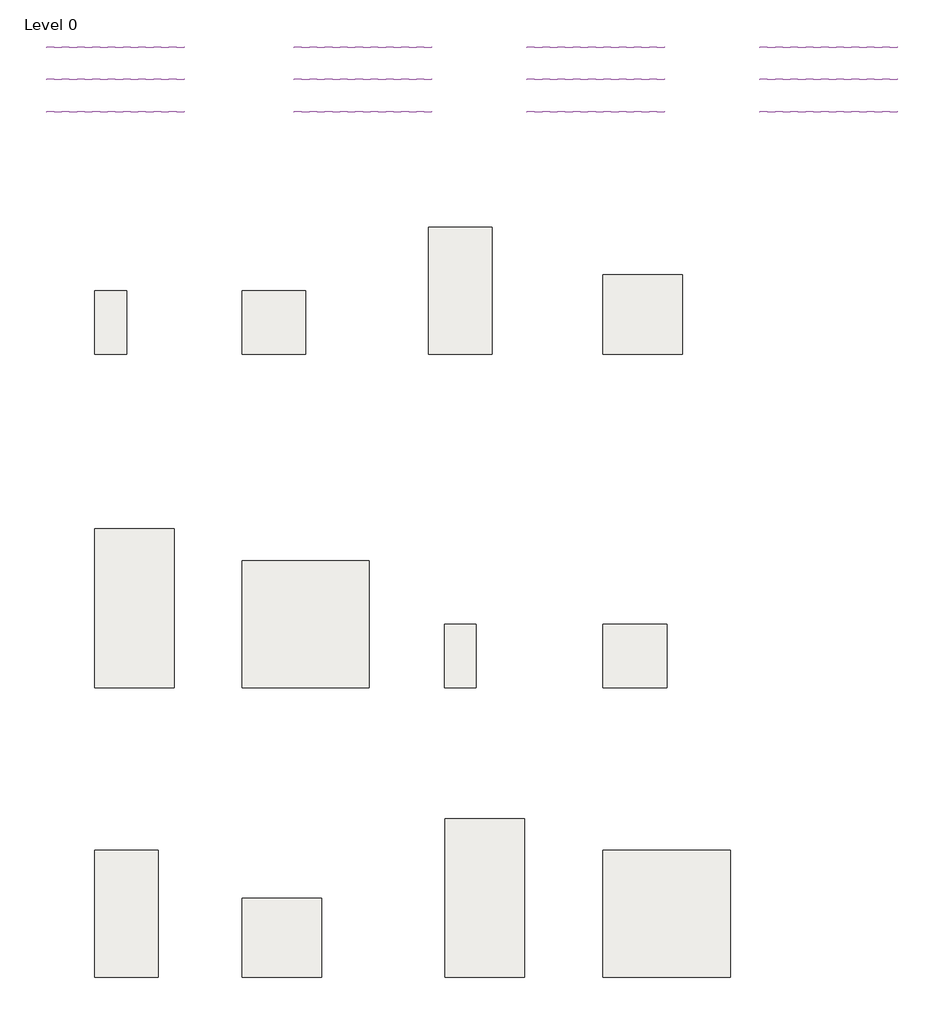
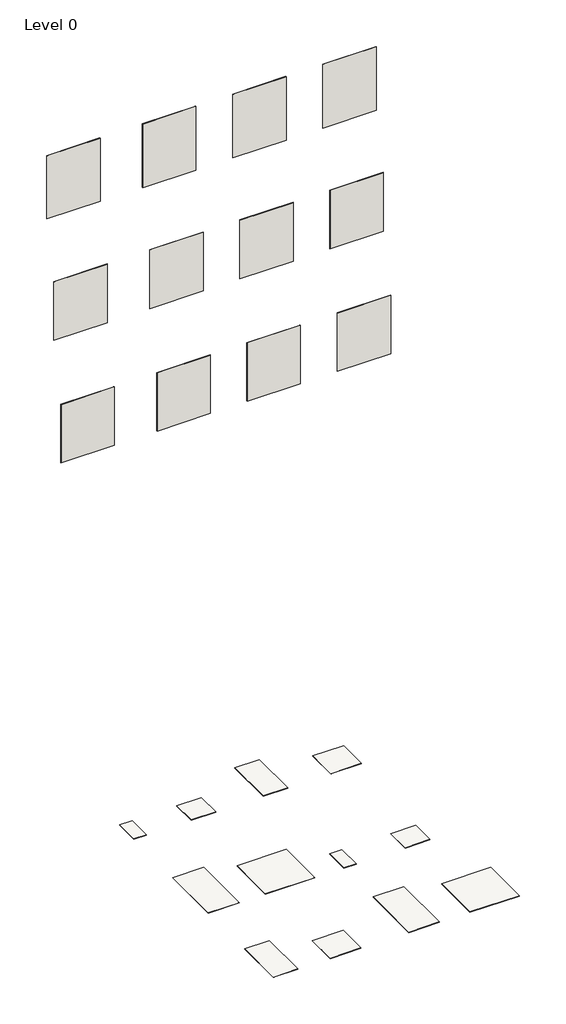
# One storey: 12 slabs, 12 walls.
"""IFC4 building model written with IfcOpenShell, lengths in millimetres."""

from ifc_helpers import new_model, si_unit, frame, origin, place, context, project, spatial, polyline, outline, extrude, element, save

model = new_model("IFC4")

# Units and contexts
model_context = context("Model", 3, world=origin())
ifc_project = project(units=[si_unit("LENGTHUNIT", "METRE", prefix="MILLI")], contexts=[model_context])

# Site, building, storey
site = spatial("IfcSite", under=ifc_project)
building = spatial("IfcBuilding", under=site)
storey = spatial("IfcBuildingStorey", under=building, Name="Level 0", Elevation=0.0)

# Slabs
placement = place(None, origin())
element("IfcSlab", 1, ObjectType="Floor_Tiles_Refin-Mold-Mist-60x120 NC94", at=placement, inside=storey, context=model_context, shape_type="SweptSolid", body=[
    extrude(outline(polyline([(10127.1861419, 6439.4623743), (10127.1861419, 5239.4623743), (9527.1861419, 5239.4623743), (9527.1861419, 6439.4623743), (10127.1861419, 6439.4623743)])), frame((0.0, 0.0, -10.0), z_axis=(0.0, 0.0, 1.0), x_axis=(1.0, 0.0, 0.0)), (0.0, 0.0, 1.0), 10.0),
])
element("IfcSlab", 2, ObjectType="Floor_Tiles_Refin-Mold-Mist-30x60 MX34", at=placement, inside=storey, context=model_context, shape_type="SweptSolid", body=[
    extrude(outline(polyline([(6674.3752062, 5839.4623743), (6674.3752062, 5239.4623743), (6374.3752062, 5239.4623743), (6374.3752062, 5839.4623743), (6674.3752062, 5839.4623743)])), frame((0.0, 0.0, -10.0), z_axis=(0.0, 0.0, 1.0), x_axis=(1.0, 0.0, 0.0)), (0.0, 0.0, 1.0), 10.0),
])
element("IfcSlab", 3, ObjectType="Floor_Tiles_Refin-Mold-Mist-120x120 MY50", at=placement, inside=storey, context=model_context, shape_type="SweptSolid", body=[
    extrude(outline(polyline([(8967.3924055, 3289.4623743), (8967.3924055, 2089.4623743), (7767.3924055, 2089.4623743), (7767.3924055, 3289.4623743), (8967.3924055, 3289.4623743)])), frame((0.0, 0.0, -10.0), z_axis=(0.0, 0.0, 1.0), x_axis=(1.0, 0.0, 0.0)), (0.0, 0.0, 1.0), 10.0),
])
element("IfcSlab", 4, ObjectType="Floor_Tiles_Refin-Mold-Mist-75x150 MW61", at=placement, inside=storey, context=model_context, shape_type="SweptSolid", body=[
    extrude(outline(polyline([(7124.3752062, 3589.4623743), (7124.3752062, 2089.4623743), (6374.3752062, 2089.4623743), (6374.3752062, 3589.4623743), (7124.3752062, 3589.4623743)])), frame((0.0, 0.0, -10.0), z_axis=(0.0, 0.0, 1.0), x_axis=(1.0, 0.0, 0.0)), (0.0, 0.0, 1.0), 10.0),
])
element("IfcSlab", 5, ObjectType="Floor_Tiles_Refin-Mold-Mist-60x60 MX66", at=placement, inside=storey, context=model_context, shape_type="SweptSolid", body=[
    extrude(outline(polyline([(8367.3924055, 5838.4192064), (8367.3924055, 5238.4192064), (7767.3924055, 5238.4192064), (7767.3924055, 5838.4192064), (8367.3924055, 5838.4192064)])), frame((0.0, 0.0, -10.0), z_axis=(0.0, 0.0, 1.0), x_axis=(1.0, 0.0, 0.0)), (0.0, 0.0, 1.0), 10.0),
])
element("IfcSlab", 6, ObjectType="Floor_Tiles_Refin-Mold-Mist-Soft-30x60 MX35", at=placement, inside=storey, context=model_context, shape_type="SweptSolid", body=[
    extrude(outline(polyline([(9977.1861419, 2689.4623743), (9977.1861419, 2089.4623743), (9677.1861419, 2089.4623743), (9677.1861419, 2689.4623743), (9977.1861419, 2689.4623743)])), frame((0.0, 0.0, -10.0), z_axis=(0.0, 0.0, 1.0), x_axis=(1.0, 0.0, 0.0)), (0.0, 0.0, 1.0), 10.0),
])
element("IfcSlab", 7, ObjectType="Floor_Tiles_Refin-Mold-Mist-75x75 MX97", at=placement, inside=storey, context=model_context, shape_type="SweptSolid", body=[
    extrude(outline(polyline([(11927.1861419, 5989.4623743), (11927.1861419, 5239.4623743), (11177.1861419, 5239.4623743), (11177.1861419, 5989.4623743), (11927.1861419, 5989.4623743)])), frame((0.0, 0.0, -10.0), z_axis=(0.0, 0.0, 1.0), x_axis=(1.0, 0.0, 0.0)), (0.0, 0.0, 1.0), 10.0),
])
element("IfcSlab", 8, ObjectType="Floor_Tiles_Refin-Mold-Mist-Soft-60x60 MX67", at=placement, inside=storey, context=model_context, shape_type="SweptSolid", body=[
    extrude(outline(polyline([(11777.1861419, 2689.4623743), (11777.1861419, 2089.4623743), (11177.1861419, 2089.4623743), (11177.1861419, 2689.4623743), (11777.1861419, 2689.4623743)])), frame((0.0, 0.0, -10.0), z_axis=(0.0, 0.0, 1.0), x_axis=(1.0, 0.0, 0.0)), (0.0, 0.0, 1.0), 10.0),
])
element("IfcSlab", 9, ObjectType="Floor_Tiles_Refin-Mold-Mist-Soft-75x75 MX98", at=placement, inside=storey, context=model_context, shape_type="SweptSolid", body=[
    extrude(outline(polyline([(8517.3924055, 103.4367235), (8517.3924055, -646.5632765), (7767.3924055, -646.5632765), (7767.3924055, 103.4367235), (8517.3924055, 103.4367235)])), frame((0.0, 0.0, -10.0), z_axis=(0.0, 0.0, 1.0), x_axis=(1.0, 0.0, 0.0)), (0.0, 0.0, 1.0), 10.0),
])
element("IfcSlab", 10, ObjectType="Floor_Tiles_Refin-Mold-Mist-Soft-75x150 MW65", at=placement, inside=storey, context=model_context, shape_type="SweptSolid", body=[
    extrude(outline(polyline([(10434.1689426, 853.4367235), (10434.1689426, -646.5632765), (9684.1689426, -646.5632765), (9684.1689426, 853.4367235), (10434.1689426, 853.4367235)])), frame((0.0, 0.0, -10.0), z_axis=(0.0, 0.0, 1.0), x_axis=(1.0, 0.0, 0.0)), (0.0, 0.0, 1.0), 10.0),
])
element("IfcSlab", 11, ObjectType="Floor_Tiles_Refin-Mold-Mist-Soft-60x120 NC95", at=placement, inside=storey, context=model_context, shape_type="SweptSolid", body=[
    extrude(outline(polyline([(6974.3752062, 553.4367235), (6974.3752062, -646.5632765), (6374.3752062, -646.5632765), (6374.3752062, 553.4367235), (6974.3752062, 553.4367235)])), frame((0.0, 0.0, -10.0), z_axis=(0.0, 0.0, 1.0), x_axis=(1.0, 0.0, 0.0)), (0.0, 0.0, 1.0), 10.0),
])
element("IfcSlab", 12, ObjectType="Floor_Tiles_Refin-Mold-Mist-Soft-120x120 MY51", at=placement, inside=storey, context=model_context, shape_type="SweptSolid", body=[
    extrude(outline(polyline([(12377.1861419, 553.4367235), (12377.1861419, -646.5632765), (11177.1861419, -646.5632765), (11177.1861419, 553.4367235), (12377.1861419, 553.4367235)])), frame((0.0, 0.0, -10.0), z_axis=(0.0, 0.0, 1.0), x_axis=(1.0, 0.0, 0.0)), (0.0, 0.0, 1.0), 10.0),
])

# Walls
element("IfcWall", 13, ObjectType="Wall_Tiles_Refin-Mold-Mist-60x60 MX66", at=placement, inside=storey, context=model_context, shape_type="SweptSolid", body=[
    extrude(outline(polyline([(9557.3752062, 8132.3838631), (8257.3752062, 8132.3838631), (8257.3752062, 8142.3838631), (9557.3752062, 8142.3838631), (9557.3752062, 8132.3838631)])), frame((0.0, 0.0, 14387.6770443), z_axis=(0.0, 0.0, 1.0), x_axis=(1.0, 0.0, 0.0)), (0.0, 0.0, 1.0), 1641.7417352),
])
element("IfcWall", 14, ObjectType="Wall_Tiles_Refin-Mold-Mist-60x120 NC94", at=placement, inside=storey, context=model_context, shape_type="SweptSolid", body=[
    extrude(outline(polyline([(11757.3752062, 8132.3838631), (10457.3752062, 8132.3838631), (10457.3752062, 8142.3838631), (11757.3752062, 8142.3838631), (11757.3752062, 8132.3838631)])), frame((0.0, 0.0, 14387.6770443), z_axis=(0.0, 0.0, 1.0), x_axis=(1.0, 0.0, 0.0)), (0.0, 0.0, 1.0), 1641.7417352),
])
element("IfcWall", 15, ObjectType="Wall_Tiles_Refin-Mold-Mist-30x60 MX34", at=placement, inside=storey, context=model_context, shape_type="SweptSolid", body=[
    extrude(outline(polyline([(7217.3752062, 8132.3838631), (5917.3752062, 8132.3838631), (5917.3752062, 8142.3838631), (7217.3752062, 8142.3838631), (7217.3752062, 8132.3838631)])), frame((0.0, 0.0, 14403.7267346), z_axis=(0.0, 0.0, 1.0), x_axis=(1.0, 0.0, 0.0)), (0.0, 0.0, 1.0), 1625.692045),
])
element("IfcWall", 16, ObjectType="Wall_Tiles_Refin-Mold-Mist-75x150 MW61", at=placement, inside=storey, context=model_context, shape_type="SweptSolid", body=[
    extrude(outline(polyline([(7217.3752062, 7827.3838631), (5917.3752062, 7827.3838631), (5917.3752062, 7837.3838631), (7217.3752062, 7837.3838631), (7217.3752062, 7827.3838631)])), frame((0.0, 0.0, 11452.5436262), z_axis=(0.0, 0.0, 1.0), x_axis=(1.0, 0.0, 0.0)), (0.0, 0.0, 1.0), 1513.1985566),
])
element("IfcWall", 17, ObjectType="Wall_Tiles_Refin-Mold-Mist-120x120 MY50", at=placement, inside=storey, context=model_context, shape_type="SweptSolid", body=[
    extrude(outline(polyline([(9557.3752062, 7827.3838631), (8257.3752062, 7827.3838631), (8257.3752062, 7837.3838631), (9557.3752062, 7837.3838631), (9557.3752062, 7827.3838631)])), frame((0.0, 0.0, 11452.5436262), z_axis=(0.0, 0.0, 1.0), x_axis=(1.0, 0.0, 0.0)), (0.0, 0.0, 1.0), 1513.1985566),
])
element("IfcWall", 18, ObjectType="Wall_Tiles_Refin-Mold-Mist-Soft-30x60 MX35", at=placement, inside=storey, context=model_context, shape_type="SweptSolid", body=[
    extrude(outline(polyline([(11757.3752062, 7827.3838631), (10457.3752062, 7827.3838631), (10457.3752062, 7837.3838631), (11757.3752062, 7837.3838631), (11757.3752062, 7827.3838631)])), frame((0.0, 0.0, 11452.5436262), z_axis=(0.0, 0.0, 1.0), x_axis=(1.0, 0.0, 0.0)), (0.0, 0.0, 1.0), 1513.1985566),
])
element("IfcWall", 19, ObjectType="Wall_Tiles_Refin-Mold-Mist-Soft-60x120 NC95", at=placement, inside=storey, context=model_context, shape_type="SweptSolid", body=[
    extrude(outline(polyline([(7217.3752062, 7522.3838631), (5917.3752062, 7522.3838631), (5917.3752062, 7532.3838631), (7217.3752062, 7532.3838631), (7217.3752062, 7522.3838631)])), frame((0.0, 0.0, 8479.1027214), z_axis=(0.0, 0.0, 1.0), x_axis=(1.0, 0.0, 0.0)), (0.0, 0.0, 1.0), 1502.5740159),
])
element("IfcWall", 20, ObjectType="Wall_Tiles_Refin-Mold-Mist-Soft-75x75 MX98", at=placement, inside=storey, context=model_context, shape_type="SweptSolid", body=[
    extrude(outline(polyline([(9557.3752062, 7522.3838631), (8257.3752062, 7522.3838631), (8257.3752062, 7532.3838631), (9557.3752062, 7532.3838631), (9557.3752062, 7522.3838631)])), frame((0.0, 0.0, 8479.1027214), z_axis=(0.0, 0.0, 1.0), x_axis=(1.0, 0.0, 0.0)), (0.0, 0.0, 1.0), 1502.5740159),
])
element("IfcWall", 21, ObjectType="Wall_Tiles_Refin-Mold-Mist-Soft-75x150 MW65", at=placement, inside=storey, context=model_context, shape_type="SweptSolid", body=[
    extrude(outline(polyline([(11757.3752062, 7522.3838631), (10457.3752062, 7522.3838631), (10457.3752062, 7532.3838631), (11757.3752062, 7532.3838631), (11757.3752062, 7522.3838631)])), frame((0.0, 0.0, 8479.1027214), z_axis=(0.0, 0.0, 1.0), x_axis=(1.0, 0.0, 0.0)), (0.0, 0.0, 1.0), 1502.5740159),
])
element("IfcWall", 22, ObjectType="Wall_Tiles_Refin-Mold-Mist-75x75 MX97", at=placement, inside=storey, context=model_context, shape_type="SweptSolid", body=[
    extrude(outline(polyline([(13957.3752062, 8132.3838631), (12657.3752062, 8132.3838631), (12657.3752062, 8142.3838631), (13957.3752062, 8142.3838631), (13957.3752062, 8132.3838631)])), frame((0.0, 0.0, 14387.6770443), z_axis=(0.0, 0.0, 1.0), x_axis=(1.0, 0.0, 0.0)), (0.0, 0.0, 1.0), 1641.7417352),
])
element("IfcWall", 23, ObjectType="Wall_Tiles_Refin-Mold-Mist-Soft-60x60 MX67", at=placement, inside=storey, context=model_context, shape_type="SweptSolid", body=[
    extrude(outline(polyline([(13957.3752062, 7827.3838631), (12657.3752062, 7827.3838631), (12657.3752062, 7837.3838631), (13957.3752062, 7837.3838631), (13957.3752062, 7827.3838631)])), frame((0.0, 0.0, 11452.5436262), z_axis=(0.0, 0.0, 1.0), x_axis=(1.0, 0.0, 0.0)), (0.0, 0.0, 1.0), 1513.1985566),
])
element("IfcWall", 24, ObjectType="Wall_Tiles_Refin-Mold-Mist-Soft-120x120 MY51", at=placement, inside=storey, context=model_context, shape_type="SweptSolid", body=[
    extrude(outline(polyline([(13957.3752062, 7522.3838631), (12657.3752062, 7522.3838631), (12657.3752062, 7532.3838631), (13957.3752062, 7532.3838631), (13957.3752062, 7522.3838631)])), frame((0.0, 0.0, 8479.1027214), z_axis=(0.0, 0.0, 1.0), x_axis=(1.0, 0.0, 0.0)), (0.0, 0.0, 1.0), 1502.5740159),
])

save(model, "model.ifc")
